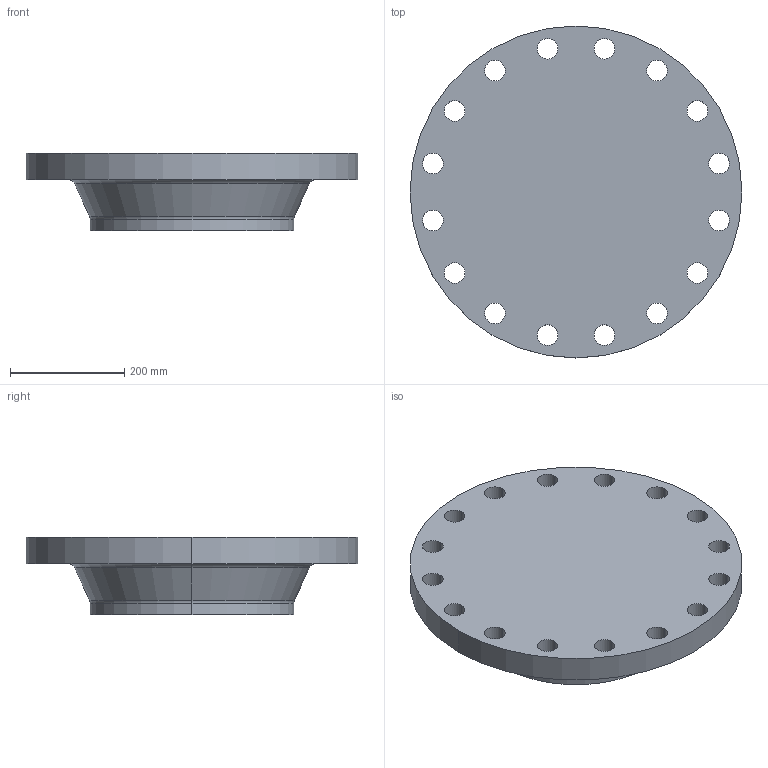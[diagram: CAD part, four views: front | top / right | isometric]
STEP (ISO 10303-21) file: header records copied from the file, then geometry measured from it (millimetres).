
FILE_DESCRIPTION (( 'STEP AP214' ), '1' );
FILE_NAME ('PN40 DN350 Type 21(ii) - Type A Face.STEP', '2019-01-05T21:44:56', ( '' ), ( '' ), 'SwSTEP 2.0', 'SolidWorks 2019', '' );
FILE_SCHEMA (( 'AUTOMOTIVE_DESIGN' ));
Length unit declared in the file: millimetre
Products named in the file (1): PN40 DN350 Type 21(ii) - Type A Face
Bounding box: 580 x 580 x 135 mm (x, y, z)
Volume: 21453204.8 mm3; surface area: 737488.9 mm2
Topology: 1 solids, 1 shells, 45 faces, 120 edges, 78 vertices
Faces by surface type: cylinder 36, torus 4, plane 3, cone 2
Entity records: 1546 total; most frequent: DIRECTION 294, CARTESIAN_POINT 244, ORIENTED_EDGE 240, AXIS2_PLACEMENT_3D 128, EDGE_CURVE 120, CIRCLE 82, EDGE_LOOP 78, VERTEX_POINT 78
